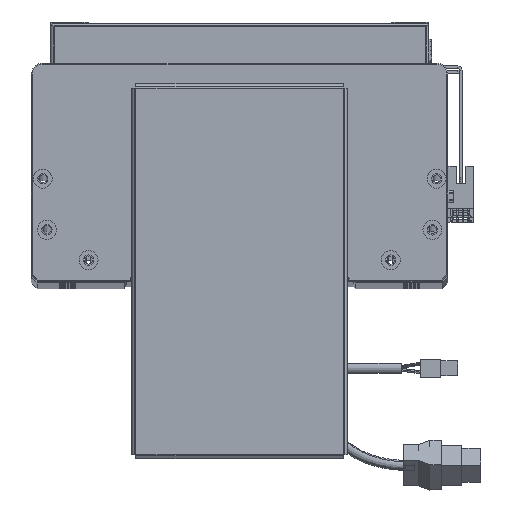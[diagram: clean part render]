
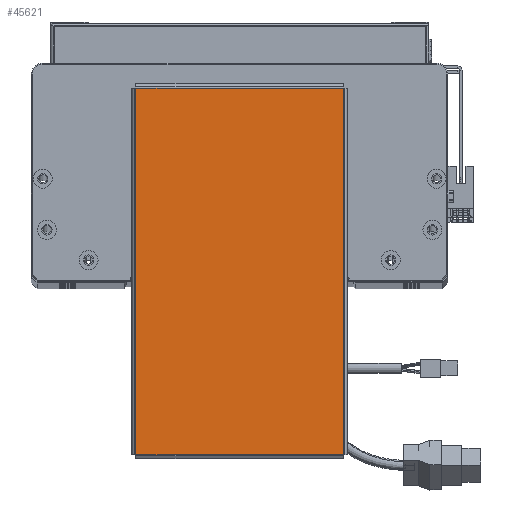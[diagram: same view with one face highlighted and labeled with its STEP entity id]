
A CAD part, top view. The second image highlights one B-rep face of the part: STEP entity #45621.
In plain terms, the highlighted planar face has unit normal (0, 0, 1).
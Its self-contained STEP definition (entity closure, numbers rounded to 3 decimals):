
#958 = CARTESIAN_POINT ( 'NONE',  ( -96.763, 54.793, 0. ) ) ;
#4466 = EDGE_LOOP ( 'NONE', ( #27201, #14681, #41607, #60056 ) ) ;
#4630 = DIRECTION ( 'NONE',  ( 1., 0., 0. ) ) ;
#5348 = DIRECTION ( 'NONE',  ( 0., 1., 0. ) ) ;
#6024 = AXIS2_PLACEMENT_3D ( 'NONE', #37447, #26857, #4630 ) ;
#6316 = EDGE_CURVE ( 'NONE', #14100, #67133, #25015, .T. ) ;
#7333 = LINE ( 'NONE', #15486, #33273 ) ;
#8362 = LINE ( 'NONE', #42612, #16658 ) ;
#9553 = CARTESIAN_POINT ( 'NONE',  ( -96.763, -54.763, 0. ) ) ;
#11582 = LINE ( 'NONE', #25691, #20003 ) ;
#14100 = VERTEX_POINT ( 'NONE', #31854 ) ;
#14681 = ORIENTED_EDGE ( 'NONE', *, *, #56996, .T. ) ;
#15486 = CARTESIAN_POINT ( 'NONE',  ( 96.793, 54.763, 0. ) ) ;
#15699 = DIRECTION ( 'NONE',  ( -1., 0., 0. ) ) ;
#16658 = VECTOR ( 'NONE', #5348, 1000. ) ;
#16748 = EDGE_CURVE ( 'NONE', #67133, #44009, #11582, .T. ) ;
#19978 = VECTOR ( 'NONE', #22296, 1000. ) ;
#20003 = VECTOR ( 'NONE', #20549, 1000. ) ;
#20549 = DIRECTION ( 'NONE',  ( 1., 0., 0. ) ) ;
#22033 = VERTEX_POINT ( 'NONE', #39752 ) ;
#22296 = DIRECTION ( 'NONE',  ( 0., -1., 0. ) ) ;
#22398 = FACE_OUTER_BOUND ( 'NONE', #4466, .T. ) ;
#25015 = LINE ( 'NONE', #958, #19978 ) ;
#25691 = CARTESIAN_POINT ( 'NONE',  ( -96.793, -54.763, 0. ) ) ;
#26857 = DIRECTION ( 'NONE',  ( 0., 0., 1. ) ) ;
#27201 = ORIENTED_EDGE ( 'NONE', *, *, #16748, .T. ) ;
#27781 = CARTESIAN_POINT ( 'NONE',  ( 96.763, -54.763, 0. ) ) ;
#31854 = CARTESIAN_POINT ( 'NONE',  ( -96.763, 54.763, 0. ) ) ;
#33273 = VECTOR ( 'NONE', #15699, 1000. ) ;
#37447 = CARTESIAN_POINT ( 'NONE',  ( 0., 0., 0. ) ) ;
#39752 = CARTESIAN_POINT ( 'NONE',  ( 96.763, 54.763, 0. ) ) ;
#41607 = ORIENTED_EDGE ( 'NONE', *, *, #44820, .T. ) ;
#42612 = CARTESIAN_POINT ( 'NONE',  ( 96.763, -54.793, 0. ) ) ;
#44009 = VERTEX_POINT ( 'NONE', #27781 ) ;
#44820 = EDGE_CURVE ( 'NONE', #22033, #14100, #7333, .T. ) ;
#45621 = ADVANCED_FACE ( 'NONE', ( #22398 ), #47741, .T. ) ;
#47741 = PLANE ( 'NONE',  #6024 ) ;
#56996 = EDGE_CURVE ( 'NONE', #44009, #22033, #8362, .T. ) ;
#60056 = ORIENTED_EDGE ( 'NONE', *, *, #6316, .T. ) ;
#67133 = VERTEX_POINT ( 'NONE', #9553 ) ;
